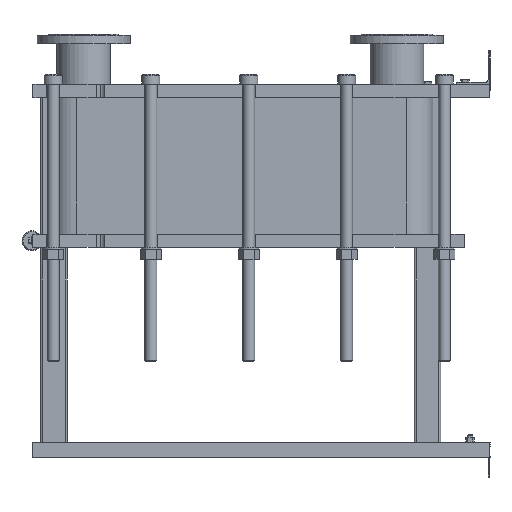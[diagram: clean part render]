
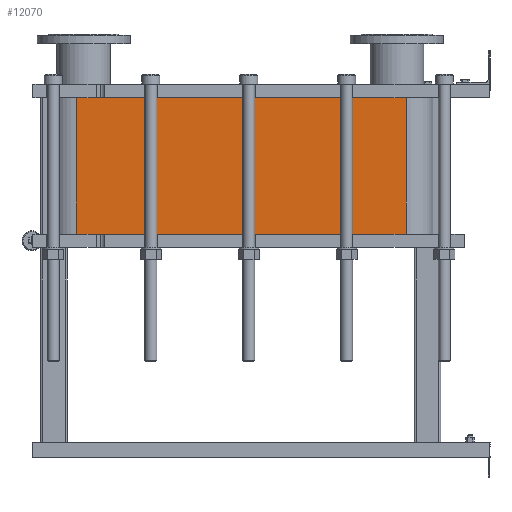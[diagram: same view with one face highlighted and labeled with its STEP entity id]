
A CAD part, left-side view. The second image highlights one B-rep face of the part: STEP entity #12070.
In plain terms, the highlighted planar face has unit normal (-1, 0, 0).
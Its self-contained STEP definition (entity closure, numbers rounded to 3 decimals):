
#1064=LINE('',#21140,#2164);
#1065=LINE('',#21144,#2165);
#1066=LINE('',#21146,#2166);
#1067=LINE('',#21147,#2167);
#2164=VECTOR('',#15790,10.);
#2165=VECTOR('',#15795,10.);
#2166=VECTOR('',#15796,10.);
#2167=VECTOR('',#15797,10.);
#3304=FACE_OUTER_BOUND('',#4091,.T.);
#4091=EDGE_LOOP('',(#9793,#9794,#9795,#9796));
#5677=VERTEX_POINT('',#21137);
#5678=VERTEX_POINT('',#21139);
#5679=VERTEX_POINT('',#21143);
#5680=VERTEX_POINT('',#21145);
#7118=EDGE_CURVE('',#5678,#5677,#1064,.T.);
#7120=EDGE_CURVE('',#5677,#5679,#1065,.T.);
#7121=EDGE_CURVE('',#5680,#5679,#1066,.T.);
#7122=EDGE_CURVE('',#5680,#5678,#1067,.T.);
#9793=ORIENTED_EDGE('',*,*,#7120,.T.);
#9794=ORIENTED_EDGE('',*,*,#7121,.F.);
#9795=ORIENTED_EDGE('',*,*,#7122,.T.);
#9796=ORIENTED_EDGE('',*,*,#7118,.T.);
#11441=PLANE('',#13191);
#12070=ADVANCED_FACE('',(#3304),#11441,.T.);
#13191=AXIS2_PLACEMENT_3D('',#21142,#15793,#15794);
#15790=DIRECTION('',(0.,0.,-1.));
#15793=DIRECTION('center_axis',(-1.,0.,0.));
#15794=DIRECTION('ref_axis',(0.,1.,0.));
#15795=DIRECTION('',(0.,-1.,0.));
#15796=DIRECTION('',(0.,0.,-1.));
#15797=DIRECTION('',(0.,1.,0.));
#21137=CARTESIAN_POINT('',(-248.152,1243.818,-410.55));
#21139=CARTESIAN_POINT('',(-248.152,1243.818,0.));
#21140=CARTESIAN_POINT('',(-248.152,1243.818,0.));
#21142=CARTESIAN_POINT('Origin',(-248.152,251.818,0.));
#21143=CARTESIAN_POINT('',(-248.152,251.818,-410.55));
#21144=CARTESIAN_POINT('',(-248.152,499.818,-410.55));
#21145=CARTESIAN_POINT('',(-248.152,251.818,0.));
#21146=CARTESIAN_POINT('',(-248.152,251.818,0.));
#21147=CARTESIAN_POINT('',(-248.152,251.818,0.));
